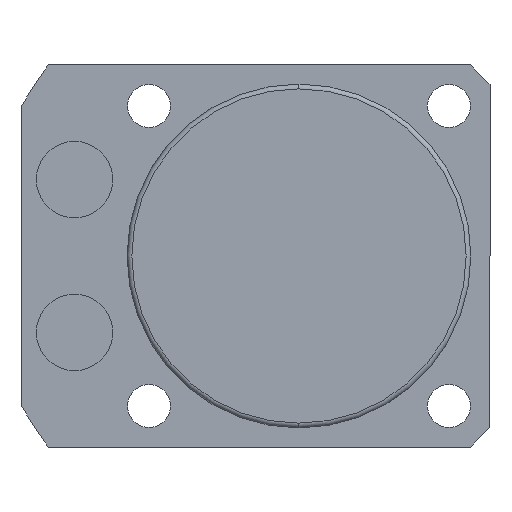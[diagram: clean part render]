
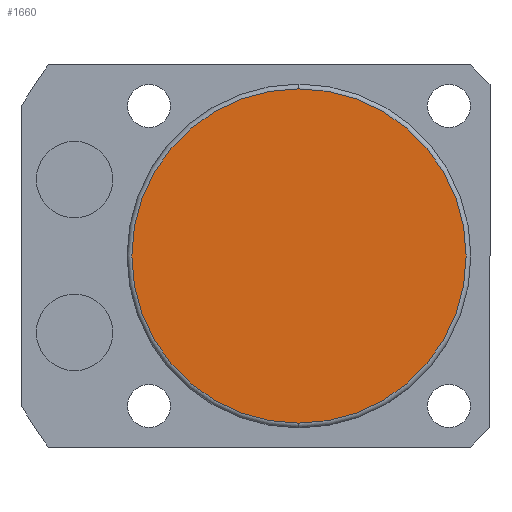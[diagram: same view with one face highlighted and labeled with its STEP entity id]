
A CAD part, front view. The second image highlights one B-rep face of the part: STEP entity #1660.
In plain terms, the highlighted planar face has unit normal (0, -1, 0).
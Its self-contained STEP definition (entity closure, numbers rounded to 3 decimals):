
#90 = CARTESIAN_POINT ( 'NONE',  ( 0., -105.5, 0. ) ) ;
#249 = DIRECTION ( 'NONE',  ( 0., 0., -1. ) ) ;
#310 = ORIENTED_EDGE ( 'NONE', *, *, #580, .T. ) ;
#443 = DIRECTION ( 'NONE',  ( 0., -1., 0. ) ) ;
#523 = CIRCLE ( 'NONE', #1746, 17.5 ) ;
#580 = EDGE_CURVE ( 'NONE', #1654, #1370, #523, .T. ) ;
#635 = DIRECTION ( 'NONE',  ( 0., 0., -1. ) ) ;
#715 = AXIS2_PLACEMENT_3D ( 'NONE', #1530, #443, #635 ) ;
#802 = CIRCLE ( 'NONE', #715, 17.5 ) ;
#966 = DIRECTION ( 'NONE',  ( 0., -1., 0. ) ) ;
#1132 = DIRECTION ( 'NONE',  ( 0., -1., 0. ) ) ;
#1143 = ORIENTED_EDGE ( 'NONE', *, *, #1663, .T. ) ;
#1349 = PLANE ( 'NONE',  #2087 ) ;
#1370 = VERTEX_POINT ( 'NONE', #2332 ) ;
#1390 = FACE_OUTER_BOUND ( 'NONE', #2086, .T. ) ;
#1530 = CARTESIAN_POINT ( 'NONE',  ( 0., -105.5, 0. ) ) ;
#1654 = VERTEX_POINT ( 'NONE', #1718 ) ;
#1660 = ADVANCED_FACE ( 'NONE', ( #1390 ), #1349, .T. ) ;
#1663 = EDGE_CURVE ( 'NONE', #1370, #1654, #802, .T. ) ;
#1683 = CARTESIAN_POINT ( 'NONE',  ( 0., -105.5, 0. ) ) ;
#1718 = CARTESIAN_POINT ( 'NONE',  ( 0., -105.5, 17.5 ) ) ;
#1746 = AXIS2_PLACEMENT_3D ( 'NONE', #1683, #1132, #2244 ) ;
#2086 = EDGE_LOOP ( 'NONE', ( #1143, #310 ) ) ;
#2087 = AXIS2_PLACEMENT_3D ( 'NONE', #90, #966, #249 ) ;
#2244 = DIRECTION ( 'NONE',  ( 0., 0., -1. ) ) ;
#2332 = CARTESIAN_POINT ( 'NONE',  ( 0., -105.5, -17.5 ) ) ;
